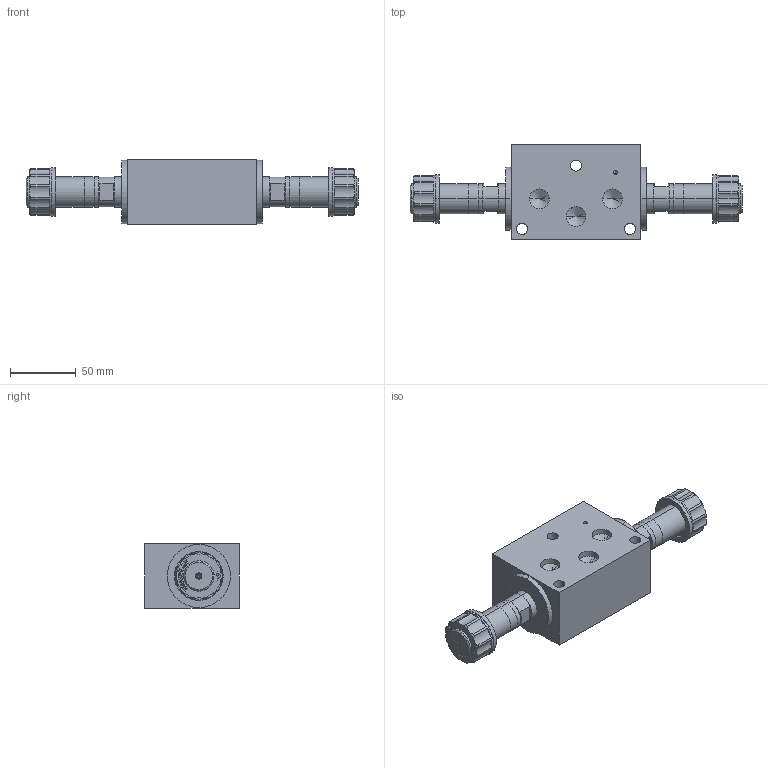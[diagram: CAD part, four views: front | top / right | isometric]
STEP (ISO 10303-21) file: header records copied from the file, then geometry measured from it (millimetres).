
FILE_DESCRIPTION (( 'STEP AP214' ), '1' );
FILE_NAME ('End Control Section CMVA-EA06-A actuation at A and B.STEP', '2025-11-12T13:37:02', ( '' ), ( '' ), 'SwSTEP 2.0', 'SolidWorks 2024', '' );
FILE_SCHEMA (( 'AUTOMOTIVE_DESIGN' ));
Length unit declared in the file: millimetre
Products named in the file (1): End Control Section CMVA-EA06-A actuation at A and B
Bounding box: 252.5 x 72 x 49 mm (x, y, z)
Volume: 390984.3 mm3; surface area: 86252 mm2
Topology: 20 solids, 20 shells, 1491 faces, 3689 edges, 2285 vertices
Faces by surface type: plane 914, cylinder 247, cone 211, torus 78, bspline 41
Entity records: 45795 total; most frequent: CARTESIAN_POINT 10039, DIRECTION 7445, ORIENTED_EDGE 7302, EDGE_CURVE 3651, AXIS2_PLACEMENT_3D 2511, VECTOR 2423, LINE 2423, VERTEX_POINT 2285
